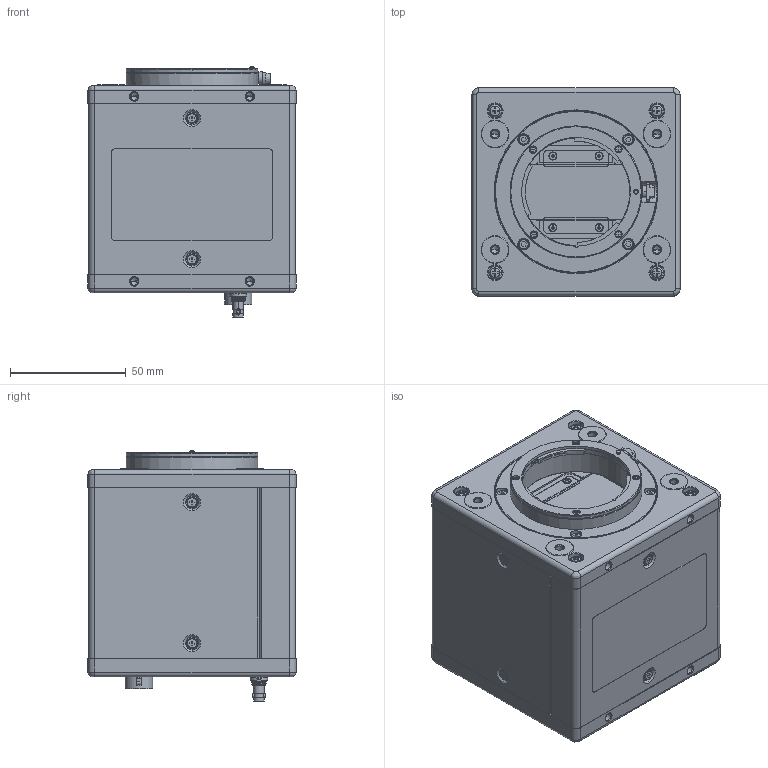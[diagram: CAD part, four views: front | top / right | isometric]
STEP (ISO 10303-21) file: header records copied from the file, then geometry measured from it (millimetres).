
FILE_DESCRIPTION((''),'2;1');
FILE_NAME('SW-4000T-CXPA-F_MOCK','2025-12-22T15:42:55',('aso'),(''),'CREO PARAMETRIC BY PTC INC, 2025323','CREO PARAMETRIC BY PTC INC, 2025323','');
FILE_SCHEMA(('AUTOMOTIVE_DESIGN { 1 0 10303 214 1 1 1 1 }'));
Products named in the file (1): SW-4000T-CXPA-F_MOCK
Bounding box: 90 x 90 x 108.3 mm (x, y, z)
Volume: 708811.7 mm3; surface area: 64683.7 mm2
Topology: 2 solids, 24 shells, 1543 faces, 4085 edges, 2639 vertices
Faces by surface type: plane 751, cylinder 510, cone 166, torus 66, sphere 28, bspline 22
Entity records: 67094 total; most frequent: CARTESIAN_POINT 16989, DIRECTION 8103, ORIENTED_EDGE 8000, EDGE_CURVE 4025, AXIS2_PLACEMENT_3D 2945, VERTEX_POINT 2639, VECTOR 2213, LINE 2213
